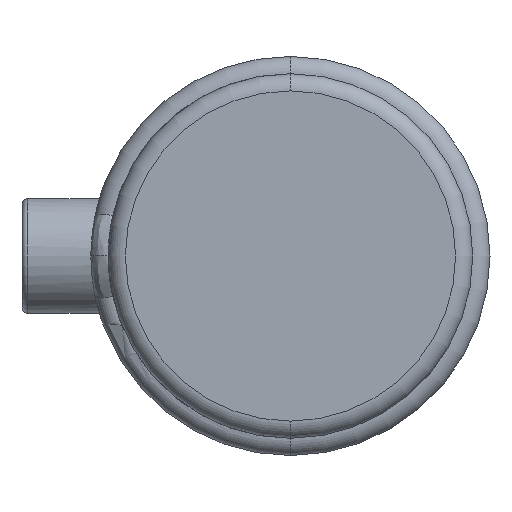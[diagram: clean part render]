
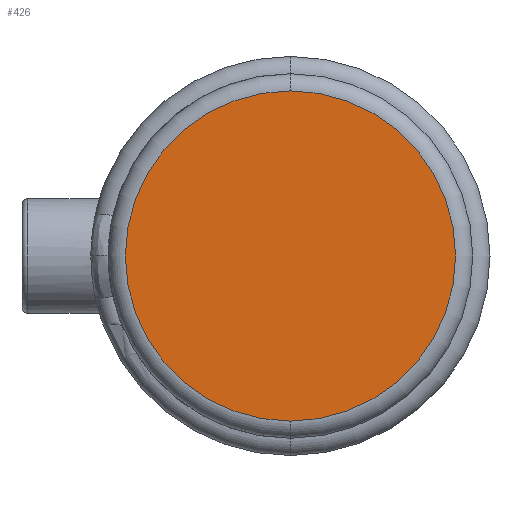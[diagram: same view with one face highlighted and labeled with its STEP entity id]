
A CAD part, left-side view. The second image highlights one B-rep face of the part: STEP entity #426.
In plain terms, the highlighted planar face has unit normal (-1, 0, 0).
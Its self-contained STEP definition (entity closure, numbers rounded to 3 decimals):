
#118 = EDGE_LOOP ( 'NONE', ( #3563, #612 ) ) ;
#224 = AXIS2_PLACEMENT_3D ( 'NONE', #2098, #4698, #2471 ) ;
#426 = ADVANCED_FACE ( 'NONE', ( #2425 ), #3593, .T. ) ;
#532 = CARTESIAN_POINT ( 'NONE',  ( 0., 0., 0. ) ) ;
#612 = ORIENTED_EDGE ( 'NONE', *, *, #2905, .T. ) ;
#904 = DIRECTION ( 'NONE',  ( 0., 0., 1. ) ) ;
#1356 = AXIS2_PLACEMENT_3D ( 'NONE', #3903, #2194, #2818 ) ;
#1444 = CIRCLE ( 'NONE', #4648, 28.75 ) ;
#1745 = CIRCLE ( 'NONE', #224, 28.75 ) ;
#2098 = CARTESIAN_POINT ( 'NONE',  ( 0., 0., 0. ) ) ;
#2194 = DIRECTION ( 'NONE',  ( -1., 0., 0. ) ) ;
#2306 = EDGE_CURVE ( 'NONE', #4590, #4114, #1745, .T. ) ;
#2425 = FACE_OUTER_BOUND ( 'NONE', #118, .T. ) ;
#2471 = DIRECTION ( 'NONE',  ( 0., 0., 1. ) ) ;
#2818 = DIRECTION ( 'NONE',  ( 0., 0., 1. ) ) ;
#2905 = EDGE_CURVE ( 'NONE', #4114, #4590, #1444, .T. ) ;
#3158 = DIRECTION ( 'NONE',  ( -1., 0., 0. ) ) ;
#3335 = CARTESIAN_POINT ( 'NONE',  ( 0., 0., -28.75 ) ) ;
#3411 = CARTESIAN_POINT ( 'NONE',  ( 0., 0., 28.75 ) ) ;
#3563 = ORIENTED_EDGE ( 'NONE', *, *, #2306, .T. ) ;
#3593 = PLANE ( 'NONE',  #1356 ) ;
#3903 = CARTESIAN_POINT ( 'NONE',  ( 0., 0., 0. ) ) ;
#4114 = VERTEX_POINT ( 'NONE', #3335 ) ;
#4590 = VERTEX_POINT ( 'NONE', #3411 ) ;
#4648 = AXIS2_PLACEMENT_3D ( 'NONE', #532, #3158, #904 ) ;
#4698 = DIRECTION ( 'NONE',  ( -1., 0., 0. ) ) ;
